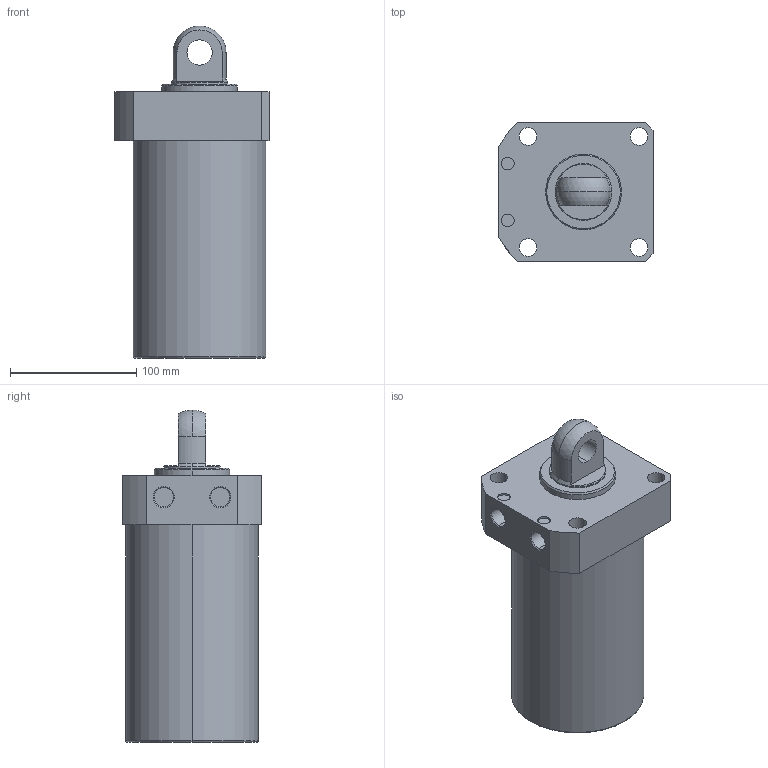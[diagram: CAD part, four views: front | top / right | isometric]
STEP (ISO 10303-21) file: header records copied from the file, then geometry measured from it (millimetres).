
FILE_DESCRIPTION (( 'STEP AP203' ), '1' );
FILE_NAME ('CLLR-105CP-125.STEP', '2019-12-18T08:09:32', ( '' ), ( '' ), 'SwSTEP 2.0', 'SolidWorks 2015', '' );
FILE_SCHEMA (( 'CONFIG_CONTROL_DESIGN' ));
Length unit declared in the file: millimetre
Products named in the file (1): CLLR-105CP-125
Bounding box: 122 x 110 x 263 mm (x, y, z)
Volume: 2015453.8 mm3; surface area: 114264 mm2
Topology: 1 solids, 1 shells, 59 faces, 139 edges, 89 vertices
Faces by surface type: cylinder 29, plane 18, cone 8, torus 2, sphere 2
Entity records: 1822 total; most frequent: DIRECTION 331, CARTESIAN_POINT 300, ORIENTED_EDGE 278, EDGE_CURVE 139, AXIS2_PLACEMENT_3D 136, VERTEX_POINT 89, CIRCLE 76, EDGE_LOOP 76
